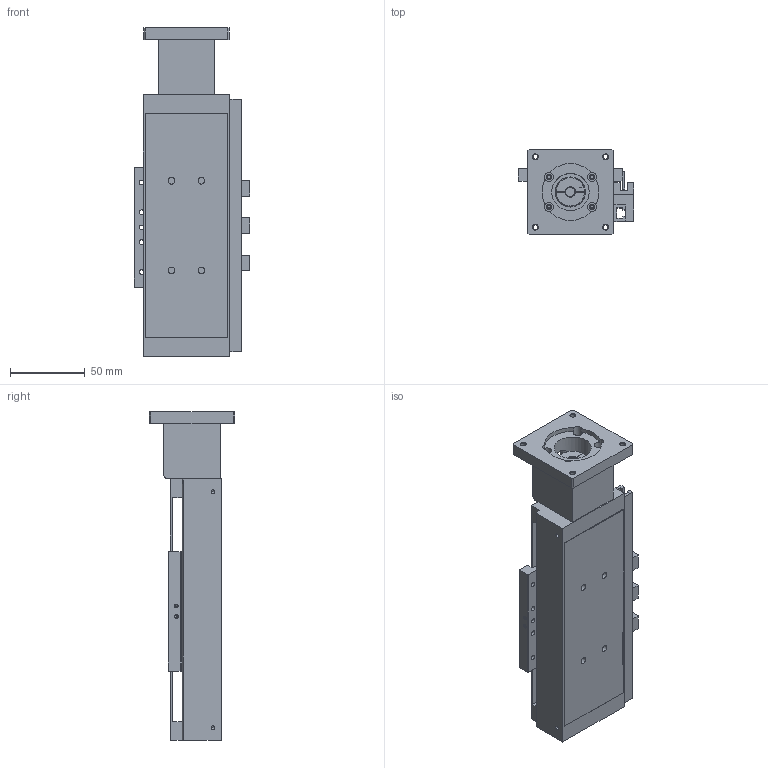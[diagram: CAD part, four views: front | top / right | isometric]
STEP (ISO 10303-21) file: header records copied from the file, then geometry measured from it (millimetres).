
FILE_DESCRIPTION((''),'2;1');
FILE_NAME('E:\uia actuator\UIA actuator 3d- 2009\Standard ball screw actuator\UIA058R7DC\UIA058R7DC3-STEP file\with motor mount\UIA058R7DC step file 2016\UIA058R7DC-50-R0803-M23-P13-C10-S.stp','2016-04-15T15:41:15',('h029'),(''),'Autodesk Inventor 11','Autodesk Inventor 11','');
FILE_SCHEMA(('AUTOMOTIVE_DESIGN { 1 0 10303 214 1 1 1 1 }'));
Length unit declared in the file: millimetre
Products named in the file (10): UIA058R7DC-50-R0803-M23-P13-C10-S; UIA058R7DC-50-BODY; UIA058R7DC-50-SENSOR RAIL; UIA058R7DC-CARRIAGE; UIA058R7DC SENSOR FLAG; 10-100 0110-M23 MotorMOUNT; SOH-20C; SOH-20C-3; SOH-20C-1; SOH-20C-2
Assembly tree (9 placements, depth 3):
  UIA058R7DC-50-R0803-M23-P13-C10-S
    UIA058R7DC-50-BODY
    UIA058R7DC-50-SENSOR RAIL
    UIA058R7DC-CARRIAGE
    UIA058R7DC SENSOR FLAG
    10-100 0110-M23 MotorMOUNT
    SOH-20C
      SOH-20C-3
      SOH-20C-1
      SOH-20C-2
Bounding box: 77.4 x 57 x 220 mm (x, y, z)
Volume: 247845.9 mm3; surface area: 116796.7 mm2
Topology: 11 solids, 11 shells, 320 faces, 883 edges, 582 vertices
Faces by surface type: plane 184, cylinder 84, cone 44, bspline 8
Full cylindrical faces by diameter (mm): 2.013 x4, 2.459 x8, 3 x8, 3.242 x12, 3.5 x6, 4 x2, 4.5 x4, 6 x4, 6.35 x1, 7.5 x4, 16 x2, 20 x3, 25 x1
Entity records: 10124 total; most frequent: CARTESIAN_POINT 2115, DIRECTION 1601, ORIENTED_EDGE 1490, EDGE_CURVE 745, AXIS2_PLACEMENT_3D 557, VERTEX_POINT 539, EDGE_LOOP 499, VECTOR 487
